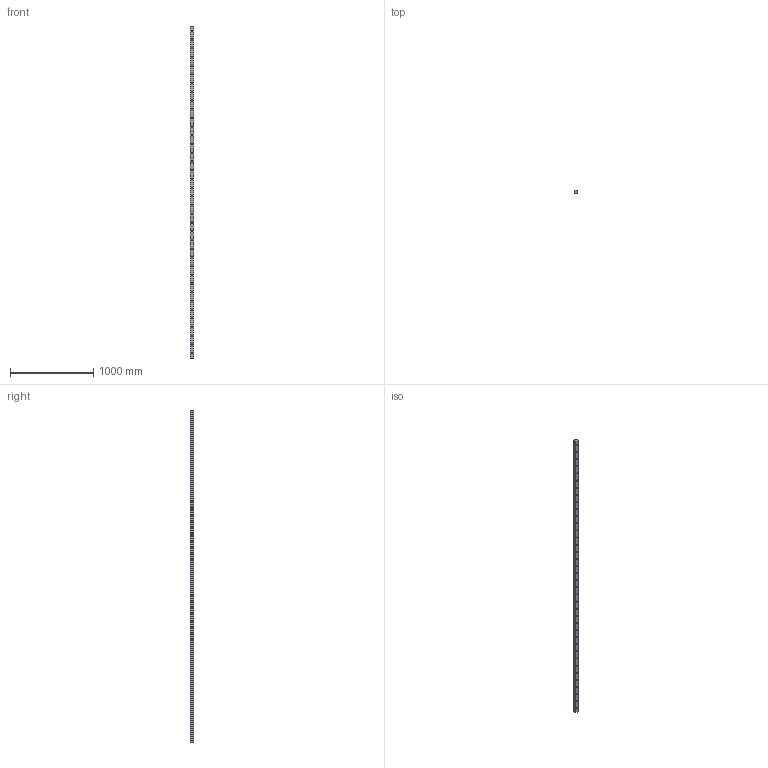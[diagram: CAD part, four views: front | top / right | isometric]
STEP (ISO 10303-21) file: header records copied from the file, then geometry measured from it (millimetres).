
FILE_DESCRIPTION(/* description */ (''),/* implementation_level */ '2;1');
FILE_NAME(/* name */ 'T:\DATABASE STEP\CARRELLI\ISB AS\15\isbas-guide-BR45.step',/* time_stamp */ '2022-09-29T11:34:06+02:00',/* author */ ('spaveluc'),/* organization */ (''),/* preprocessor_version */ 'ST-DEVELOPER v18.1',/* originating_system */ 'AutoCAD Mechanical',/* authorisation */ '');
FILE_SCHEMA (('AUTOMOTIVE_DESIGN { 1 0 10303 214 3 1 1 }'));
Length unit declared in the file: millimetre
Products named in the file (1): Product
Bounding box: 45 x 38 x 4000 mm (x, y, z)
Volume: 5872836.2 mm3; surface area: 747966.5 mm2
Topology: 1 solids, 1 shells, 140 faces, 300 edges, 200 vertices
Faces by surface type: cylinder 86, plane 54
Full cylindrical faces by diameter (mm): 14 x38, 20 x38
Entity records: 4051 total; most frequent: DIRECTION 754, CARTESIAN_POINT 641, ORIENTED_EDGE 600, AXIS2_PLACEMENT_3D 313, EDGE_CURVE 300, EDGE_LOOP 254, VERTEX_POINT 200, CIRCLE 172
